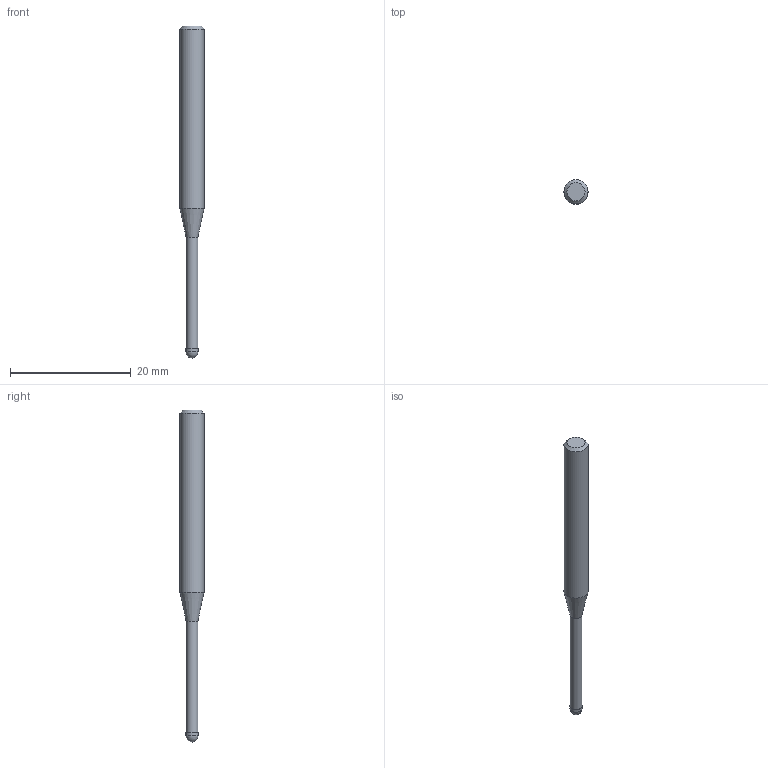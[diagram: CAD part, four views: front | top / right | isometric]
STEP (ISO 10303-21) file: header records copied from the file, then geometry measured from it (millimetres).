
FILE_DESCRIPTION((''),'2;1');
FILE_NAME('C:\Users\nsx150\AppData\Local\Temp\Mastercam 2021\3SYKECWX22\TEMP.step','2021-04-22T10:04:18',(''),(''),'STEP Write','Mastercam 2021 ... CNC Software, Inc.','');
FILE_SCHEMA(('AUTOMOTIVE_DESIGN'));
Length unit declared in the file: millimetre
Products named in the file (1): None
Bounding box: 4 x 4 x 55 mm (x, y, z)
Volume: 470.8 mm3; surface area: 562 mm2
Topology: 2 solids, 2 shells, 9 faces, 14 edges, 8 vertices
Faces by surface type: plane 3, cylinder 3, cone 2, sphere 1
Full cylindrical faces by diameter (mm): 1.94 x1, 2 x1, 4 x1
Entity records: 211 total; most frequent: DIRECTION 36, CARTESIAN_POINT 25, AXIS2_PLACEMENT_3D 18, ORIENTED_EDGE 14, EDGE_LOOP 14, STYLED_ITEM 12, ADVANCED_FACE 9, FACE_BOUND 8
